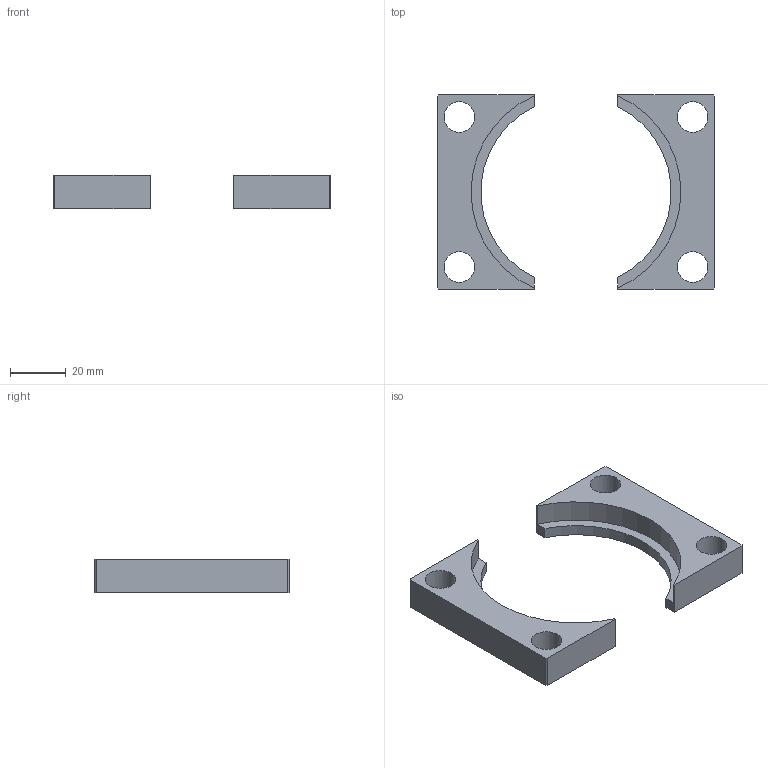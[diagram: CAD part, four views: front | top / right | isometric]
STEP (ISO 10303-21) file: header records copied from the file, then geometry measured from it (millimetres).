
FILE_DESCRIPTION(/* description */ (''),/* implementation_level */ '2;1');
FILE_NAME(/* name */ 'C:\Users\Jefferson\Desktop\Biblioteca Pro Nitro 2024\Flanges\PNB-32-XXX\PNB-32-075.stp',/* time_stamp */ '2024-01-10T17:13:22-03:00',/* author */ ('Jefferson'),/* organization */ (''),/* preprocessor_version */ 'ST-DEVELOPER v18.1',/* originating_system */ 'Autodesk Inventor 2021',/* authorisation */ '');
FILE_SCHEMA (('AUTOMOTIVE_DESIGN { 1 0 10303 214 3 1 1 }'));
Length unit declared in the file: millimetre
Products named in the file (1): PNB-32-075
Bounding box: 100 x 70 x 12 mm (x, y, z)
Volume: 29252.1 mm3; surface area: 12758.5 mm2
Topology: 2 solids, 2 shells, 183 faces, 495 edges, 330 vertices
Faces by surface type: plane 98, bspline 77, cylinder 8
Full cylindrical faces by diameter (mm): 11 x4
Entity records: 6163 total; most frequent: CARTESIAN_POINT 2010, ORIENTED_EDGE 990, DIRECTION 571, EDGE_CURVE 495, VERTEX_POINT 330, LINE 325, VECTOR 325, EDGE_LOOP 205
